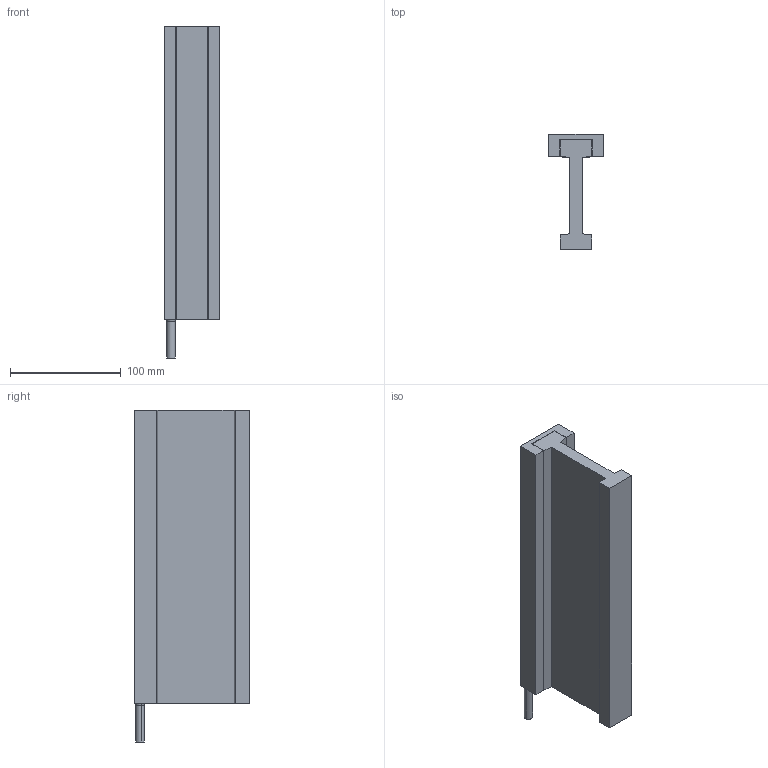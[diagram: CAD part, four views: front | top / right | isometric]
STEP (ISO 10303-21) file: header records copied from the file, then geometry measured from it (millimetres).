
FILE_DESCRIPTION (( 'STEP AP214' ), '1' );
FILE_NAME ('DX65F-C4-NH.step', '2022-09-22T03:41:54', ( '' ), ( '' ), 'SwSTEP 2.0', 'SolidWorks 2020', '' );
FILE_SCHEMA (( 'AUTOMOTIVE_DESIGN' ));
Length unit declared in the file: millimetre
Products named in the file (1): DX65F-C4-NH
Bounding box: 49 x 104 x 300 mm (x, y, z)
Volume: 568029.7 mm3; surface area: 128120.5 mm2
Topology: 3 solids, 3 shells, 85 faces, 204 edges, 118 vertices
Faces by surface type: cylinder 32, plane 31, cone 20, torus 2
Entity records: 3303 total; most frequent: DIRECTION 422, CARTESIAN_POINT 388, ORIENTED_EDGE 368, EDGE_CURVE 184, AXIS2_PLACEMENT_3D 152, LINE 118, VECTOR 118, VERTEX_POINT 118
